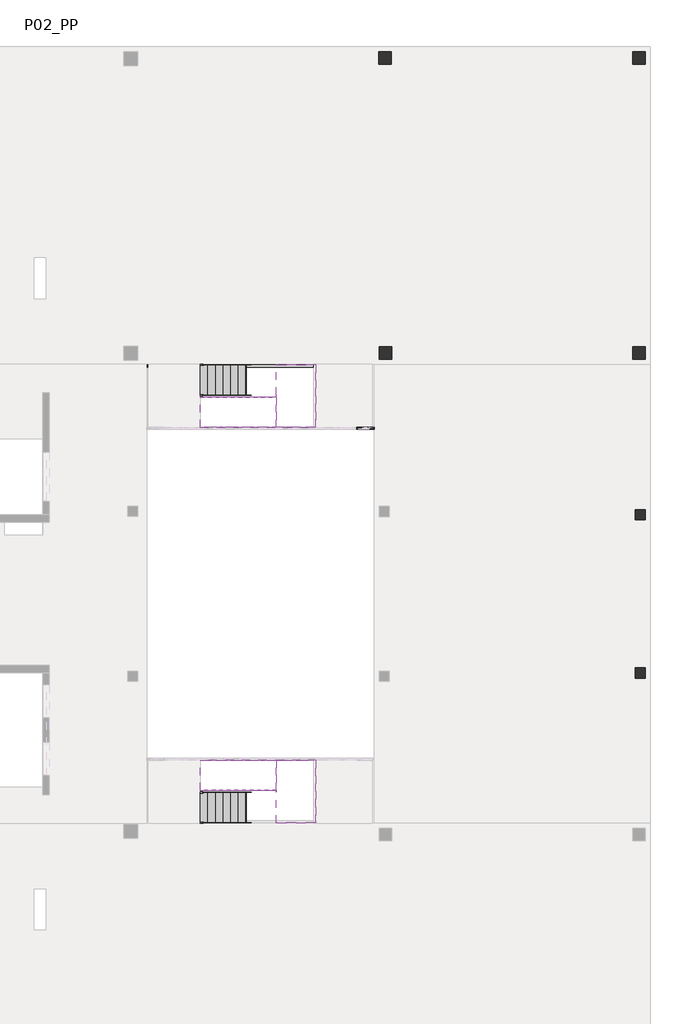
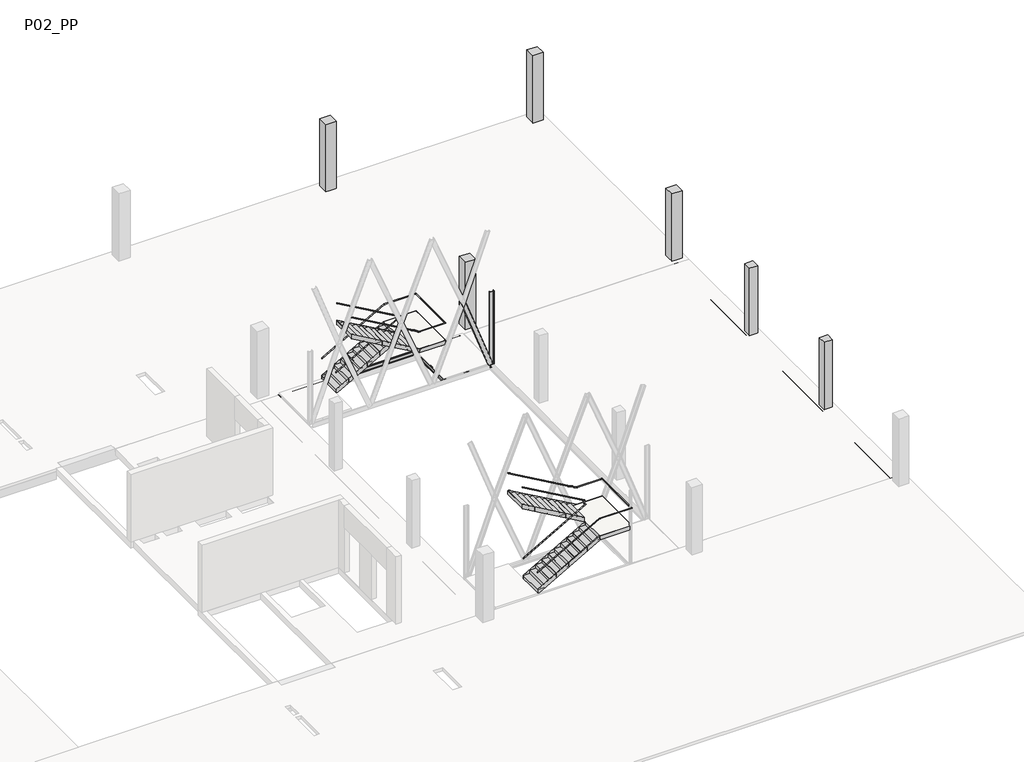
# One storey, part 7 of 7: 16 beams, 16 members, 7 columns, 4 railings, 4 stair flights, 2 slabs.
"""IFC4 building model written with IfcOpenShell, lengths in millimetres."""

from ifc_helpers import new_model, si_unit, frame, origin, place, context, project, spatial, polyline, circle_curve, ellipse_curve, outline, extrude, faceted_brep, transform, mapped, element, save
from ifc_brep_helpers import plane_surface, cylinder_surface, revolved_surface, advanced_brep
from components import ub_universal_beams_ipe_200x100_e371353f, ub_universal_beams_ipe_200x100_1ecb3d1d, ub_universal_beams_ipe_200x100_6905c83b, upn_200x75_f929c6c0, railing_900mm_pipe_top_rail_3393101f, railing_900mm_pipe_top_rail_a27a7483, railing_900mm_pipe_top_rail_dbc6d34f, railing_900mm_pipe_top_rail_26344ec8, slab_e47831ee, slab_ab228be9, metal_steps_w_10mm_tread_10mm_nosing_9ce4fc9e, metal_steps_w_10mm_tread_10mm_nosing_577c989f, metal_steps_w_10mm_tread_10mm_nosing_309ba8eb, metal_steps_w_10mm_tread_10mm_nosing_8405bb09

model = new_model("IFC4")

# Units and contexts
model_context = context("Model", 3, world=origin())
ifc_project = project(units=[si_unit("LENGTHUNIT", "METRE", prefix="MILLI")], contexts=[model_context])

# Site, building, storey
site = spatial("IfcSite", under=ifc_project)
building = spatial("IfcBuilding", under=site)
storey = spatial("IfcBuildingStorey", under=building, Name="P02_PP", Elevation=14910.0)

# Beams
placement = place(None, origin())
element("IfcBeam", 1, ObjectType="M_Concrete-Rectangular Beam : 1500 x 550mm", at=placement, inside=storey, context=model_context, shape_type="Brep", body=[
    faceted_brep([(16958.7687297, 13539.4134441, 14360.0), (16958.7687297, 24589.4144807, 14360.0), (16958.7687297, 24589.4144807, 14760.0), (16958.7687297, 13539.4134441, 14760.0), (15458.7687297, 24589.4144807, 14360.0), (15458.7687297, 13539.4134441, 14360.0), (15458.7687297, 15039.4134441, 14360.0), (16758.7687084, 13739.394575, 14360.0), (16758.7687081, 14289.394575, 14360.0), (16208.7687081, 14289.3945747, 14360.0), (16208.7687084, 13739.3945747, 14360.0), (15458.7687297, 13539.4134441, 14760.0), (15458.7687297, 15039.4134441, 14760.0), (15458.7687297, 24589.4144807, 14760.0), (16758.7687084, 13739.394575, 14610.0), (16758.7687081, 14289.394575, 14610.0), (16208.7687084, 13739.3945747, 14610.0), (16208.7687081, 14289.3945747, 14610.0)], [[[0, 1, 2, 3]], [[4, 1, 0, 5, 6], [7, 8, 9, 10]], [[4, 6, 5, 11, 12, 13]], [[1, 4, 13, 2]], [[5, 0, 3, 11]], [[14, 15, 8, 7]], [[16, 14, 7, 10]], [[17, 16, 10, 9]], [[15, 17, 9, 8]], [[15, 14, 16, 17]], [[3, 2, 13, 12, 11]]]),
])
element("IfcBeam", 2, ObjectType="M_Concrete-Rectangular Beam : 400 x 550mm", at=placement, inside=storey, context=model_context, shape_type="SweptSolid", body=[
    extrude(outline(polyline([(450.3958139, 24589.4144807), (850.3958139, 24589.4144807), (850.3958139, 15039.4134441), (450.3958139, 15039.4134441), (450.3958139, 24589.4144807)])), frame((0.0, 0.0, 14360.0), z_axis=(0.0, 0.0, 1.0), x_axis=(1.0, 0.0, 0.0)), (0.0, 0.0, 1.0), 400.0),
])
element("IfcBeam", 3, ObjectType="M_Concrete-Rectangular Beam : 400 x 550mm", at=placement, inside=storey, context=model_context, shape_type="SweptSolid", body=[
    extrude(outline(polyline([(2117.0624776, 24589.4144807), (2517.0624776, 24589.4144807), (2517.0624776, 15039.4134441), (2117.0624776, 15039.4134441), (2117.0624776, 24589.4144807)])), frame((0.0, 0.0, 14360.0), z_axis=(0.0, 0.0, 1.0), x_axis=(1.0, 0.0, 0.0)), (0.0, 0.0, 1.0), 400.0),
])
element("IfcBeam", 4, ObjectType="M_Concrete-Rectangular Beam : 400 x 550mm", at=placement, inside=storey, context=model_context, shape_type="SweptSolid", body=[
    extrude(outline(polyline([(3783.7291418, 24589.4144807), (4183.7291418, 24589.4144807), (4183.7291418, 15039.4134441), (3783.7291418, 15039.4134441), (3783.7291418, 24589.4144807)])), frame((0.0, 0.0, 14360.0), z_axis=(0.0, 0.0, 1.0), x_axis=(1.0, 0.0, 0.0)), (0.0, 0.0, 1.0), 400.0),
])
element("IfcBeam", 5, ObjectType="M_Concrete-Rectangular Beam : 400 x 550mm", at=placement, inside=storey, context=model_context, shape_type="SweptSolid", body=[
    extrude(outline(polyline([(5450.3958055, 24589.4144807), (5850.3958055, 24589.4144807), (5850.3958055, 15039.4134441), (5450.3958055, 15039.4134441), (5450.3958055, 24589.4144807)])), frame((0.0, 0.0, 14360.0), z_axis=(0.0, 0.0, 1.0), x_axis=(1.0, 0.0, 0.0)), (0.0, 0.0, 1.0), 400.0),
])
element("IfcBeam", 6, ObjectType="M_Concrete-Rectangular Beam : 400 x 550mm", at=placement, inside=storey, context=model_context, shape_type="SweptSolid", body=[
    extrude(outline(polyline([(7117.0624701, 24589.4144807), (7517.0624701, 24589.4144807), (7517.0624701, 15039.4134441), (7117.0624701, 15039.4134441), (7117.0624701, 24589.4144807)])), frame((0.0, 0.0, 14360.0), z_axis=(0.0, 0.0, 1.0), x_axis=(1.0, 0.0, 0.0)), (0.0, 0.0, 1.0), 400.0),
])
element("IfcBeam", 7, ObjectType="M_Concrete-Rectangular Beam : 400 x 550mm", at=placement, inside=storey, context=model_context, shape_type="SweptSolid", body=[
    extrude(outline(polyline([(8783.7291339, 24589.4144807), (9183.7291339, 24589.4144807), (9183.7291339, 15039.4134441), (8783.7291339, 15039.4134441), (8783.7291339, 24589.4144807)])), frame((0.0, 0.0, 14360.0), z_axis=(0.0, 0.0, 1.0), x_axis=(1.0, 0.0, 0.0)), (0.0, 0.0, 1.0), 400.0),
])
element("IfcBeam", 8, ObjectType="M_Concrete-Rectangular Beam : 400 x 550mm", at=placement, inside=storey, context=model_context, shape_type="SweptSolid", body=[
    extrude(outline(polyline([(10450.3957976, 24589.4144807), (10850.3957976, 24589.4144807), (10850.3957976, 15039.4134441), (10450.3957976, 15039.4134441), (10450.3957976, 24589.4144807)])), frame((0.0, 0.0, 14360.0), z_axis=(0.0, 0.0, 1.0), x_axis=(1.0, 0.0, 0.0)), (0.0, 0.0, 1.0), 400.0),
])
element("IfcBeam", 9, ObjectType="M_Concrete-Rectangular Beam : 400 x 550mm", at=placement, inside=storey, context=model_context, shape_type="SweptSolid", body=[
    extrude(outline(polyline([(12117.0624618, 24589.4144807), (12517.0624618, 24589.4144807), (12517.0624618, 15039.4134441), (12117.0624618, 15039.4134441), (12117.0624618, 24589.4144807)])), frame((0.0, 0.0, 14360.0), z_axis=(0.0, 0.0, 1.0), x_axis=(1.0, 0.0, 0.0)), (0.0, 0.0, 1.0), 400.0),
])
element("IfcBeam", 10, ObjectType="M_Concrete-Rectangular Beam : 400 x 550mm", at=placement, inside=storey, context=model_context, shape_type="SweptSolid", body=[
    extrude(outline(polyline([(13783.7291255, 24589.4144807), (14183.7291255, 24589.4144807), (14183.7291255, 15039.4134441), (13783.7291255, 15039.4134441), (13783.7291255, 24589.4144807)])), frame((0.0, 0.0, 14360.0), z_axis=(0.0, 0.0, 1.0), x_axis=(1.0, 0.0, 0.0)), (0.0, 0.0, 1.0), 400.0),
])
element("IfcBeam", 11, ObjectType="M_Concrete-Rectangular Beam : 700 x 500mm", at=placement, inside=storey, context=model_context, shape_type="Brep", body=[
    faceted_brep([(16258.7687242, -4560.5861501, 14910.0), (16958.7687242, -4560.5861501, 14910.0), (16958.7687242, 13539.4134441, 14910.0), (16258.7687242, 13539.4134441, 14910.0), (16758.7654432, 1564.4119943, 14910.0), (16758.7654437, 1164.4119943, 14910.0), (16358.7654437, 1164.4119939, 14910.0), (16358.7654432, 1564.4119939, 14910.0), (16758.7654618, 7814.4125105, 14910.0), (16758.7654623, 7414.4125105, 14910.0), (16358.7654623, 7414.41251, 14910.0), (16358.7654618, 7814.41251, 14910.0), (16258.7687242, 13539.4134441, 14760.0), (16258.7687242, 13539.4134441, 14410.0), (16258.7687242, -4560.5861501, 14410.0), (16258.7687242, -4560.5861501, 14760.0), (16958.7687242, -4560.5861501, 14410.0), (16958.7687242, 13539.4134441, 14410.0), (16758.7654437, 1164.4119943, 14410.0), (16758.7654432, 1564.4119943, 14410.0), (16358.7654432, 1564.4119939, 14410.0), (16358.7654437, 1164.4119939, 14410.0), (16758.7654623, 7414.4125105, 14410.0), (16758.7654618, 7814.4125105, 14410.0), (16358.7654618, 7814.41251, 14410.0), (16358.7654623, 7414.41251, 14410.0), (16958.7687242, -4560.5861501, 14760.0), (16958.7687242, 13539.4134441, 14760.0), (16758.7654437, 1164.4119943, 14610.0), (16758.7654432, 1564.4119943, 14610.0), (16358.7654437, 1164.4119939, 14610.0), (16358.7654432, 1564.4119939, 14610.0), (16758.7654623, 7414.4125105, 14610.0), (16758.7654618, 7814.4125105, 14610.0), (16358.7654623, 7414.41251, 14610.0), (16358.7654618, 7814.41251, 14610.0)], [[[0, 1, 2, 3], [4, 5, 6, 7], [8, 9, 10, 11]], [[0, 3, 12, 13, 14, 15]], [[16, 14, 13, 17], [18, 19, 20, 21], [22, 23, 24, 25]], [[2, 1, 26, 16, 17, 27]], [[19, 18, 28, 5, 4, 29]], [[18, 21, 30, 6, 5, 28]], [[21, 20, 31, 7, 6, 30]], [[20, 19, 29, 4, 7, 31]], [[23, 22, 32, 9, 8, 33]], [[22, 25, 34, 10, 9, 32]], [[25, 24, 35, 11, 10, 34]], [[24, 23, 33, 8, 11, 35]], [[1, 0, 15, 14, 16, 26]], [[3, 2, 27, 17, 13, 12]]]),
])
ub_universal_beams_ipe_200x100_shape = ub_universal_beams_ipe_200x100_e371353f(model_context)
element("IfcBeam", 12, ObjectType="UB-Universal Beams : IPE 200x100", at=placement, inside=storey, context=model_context, shape_type="MappedRepresentation", body=[
    mapped(ub_universal_beams_ipe_200x100_shape, transform((1299.9319648, 13489.4134389, 14810.0), x_axis=(-1.0, 0.0, 0.0), y_axis=(0.0, -1.0, 0.0), z_axis=(0.0, 0.0, 1.0))),
])
ub_universal_beams_ipe_200x100_2_shape = ub_universal_beams_ipe_200x100_1ecb3d1d(model_context)
element("IfcBeam", 13, ObjectType="UB-Universal Beams : IPE 200x100", at=placement, inside=storey, context=model_context, shape_type="MappedRepresentation", body=[
    mapped(ub_universal_beams_ipe_200x100_2_shape, transform((5938.4982342, 12672.0186888, 14810.0), x_axis=(0.0, -1.0, 0.0), y_axis=(1.0, 0.0, 0.0), z_axis=(0.0, 0.0, 1.0))),
])
ub_universal_beams_ipe_200x100_3_shape = ub_universal_beams_ipe_200x100_6905c83b(model_context)
element("IfcBeam", 14, ObjectType="UB-Universal Beams : IPE 200x100", at=placement, inside=storey, context=model_context, shape_type="MappedRepresentation", body=[
    mapped(ub_universal_beams_ipe_200x100_3_shape, transform((3714.2873994, 12677.4822857, 14810.0), x_axis=(0.0, -1.0, 0.0), y_axis=(1.0, 0.0, 0.0), z_axis=(0.0, 0.0, 1.0))),
])
element("IfcBeam", 15, ObjectType="UB-Universal Beams : IPE 200x100", at=placement, inside=storey, context=model_context, shape_type="MappedRepresentation", body=[
    mapped(ub_universal_beams_ipe_200x100_3_shape, transform((4826.3953909, 12677.4822857, 14810.0), x_axis=(0.0, -1.0, 0.0), y_axis=(1.0, 0.0, 0.0), z_axis=(0.0, 0.0, 1.0))),
])
element("IfcBeam", 16, ObjectType="M_MC Shapes : UPN200x75", at=placement, inside=storey, context=model_context, shape_type="AdvancedBrep", body=[
    advanced_brep(
    [(5999.572141, 10979.6239686, 14961.6299422), (5811.7968778, 10979.6239621, 14892.7790124), (5811.7968752, 11054.6239621, 14892.7790124), (5812.7119747, 11054.6239622, 14893.1145489), (5816.3700771, 11051.3233395, 14894.4558531), (5825.8446326, 10990.7752081, 14897.929856), (5833.1608374, 10984.1739629, 14900.6124643), (5978.208181, 10984.1739678, 14953.7964903), (5985.5243853, 10990.7752135, 14956.4790986), (5994.9989367, 11051.3233457, 14959.9531015), (5998.6570389, 11054.6239685, 14961.2944057), (5999.5721384, 11054.6239686, 14961.6299422), (4467.1491742, 10979.6239161, 18560.0000238), (4680.1697783, 10979.6239234, 18560.0000238), (4467.1491717, 11054.6239161, 18560.0000238), (4468.1873012, 11054.6239161, 18560.0000238), (4472.3372152, 11051.3232935, 18560.0000238), (4483.0855717, 10990.7751621, 18560.0000238), (4491.3853996, 10984.1739169, 18560.0000238), (4655.9335527, 10984.1739225, 18560.0000238), (4664.2333801, 10990.7751683, 18560.0000238), (4674.9817325, 11051.3233004, 18560.0000238), (4679.1316462, 11054.6239233, 18560.0000238), (4680.1697758, 11054.6239234, 18560.0000238)],
    [
        (0, 1),
        (1, 2),
        (2, 3),
        (3, 4, circle_curve(frame((5812.7119749, 11050.6739622, 14893.1145489), z_axis=(0.3442546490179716, 1.1791241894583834e-08, -0.9388763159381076), x_axis=(-3.4251510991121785e-08, 0.9999999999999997, 0.0)), 3.95)),
        (4, 5),
        (5, 6, circle_curve(frame((5833.1608372, 10992.0739629, 14900.6124643), z_axis=(-0.3442546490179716, -1.1791241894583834e-08, 0.9388763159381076), x_axis=(-3.4251510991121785e-08, 0.9999999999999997, 0.0)), 7.9)),
        (6, 7),
        (7, 8, circle_curve(frame((5978.2081807, 10992.0739678, 14953.7964903), z_axis=(-0.3442546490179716, -1.1791241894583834e-08, 0.9388763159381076), x_axis=(-3.4251510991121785e-08, 0.9999999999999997, 0.0)), 7.9)),
        (8, 9),
        (9, 10, circle_curve(frame((5998.657039, 11050.6739685, 14961.2944057), z_axis=(0.3442546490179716, 1.1791241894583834e-08, -0.9388763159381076), x_axis=(-3.4251510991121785e-08, 0.9999999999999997, 0.0)), 3.95)),
        (10, 11),
        (11, 0),
        (12, 1),
        (0, 13),
        (13, 12),
        (14, 2),
        (12, 14),
        (15, 3),
        (14, 15),
        (16, 4),
        (15, 16, ellipse_curve(frame((4468.1873014, 11050.6739161, 18560.0000238), z_axis=(-7.478685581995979e-11, 0.0, -1.0), x_axis=(-0.9999999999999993, -3.425151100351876e-08, 7.478690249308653e-11)), 4.2071569, 3.95)),
        (16, 17),
        (17, 5),
        (18, 6),
        (17, 18, ellipse_curve(frame((4491.3853993, 10992.0739169, 18560.0000238), z_axis=(7.478685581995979e-11, 0.0, 1.0), x_axis=(0.9999999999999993, 3.425151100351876e-08, -7.478690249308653e-11)), 8.4143139, 7.9)),
        (19, 7),
        (18, 19),
        (20, 8),
        (19, 20, ellipse_curve(frame((4655.9335524, 10992.0739225, 18560.0000238), z_axis=(7.478685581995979e-11, 0.0, 1.0), x_axis=(0.9999999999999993, 3.425151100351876e-08, -7.478690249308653e-11)), 8.4143139, 7.9)),
        (20, 21),
        (21, 9),
        (22, 10),
        (21, 22, ellipse_curve(frame((4679.1316463, 11050.6739233, 18560.0000238), z_axis=(-7.478685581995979e-11, 0.0, -1.0), x_axis=(-0.9999999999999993, -3.425151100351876e-08, 7.478690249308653e-11)), 4.2071569, 3.95)),
        (23, 11),
        (22, 23),
        (23, 13),
    ],
    [
        plane_surface(frame((5905.684509, 10990.5239653, 14927.2044773), z_axis=(0.3442546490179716, 1.1791241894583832e-08, -0.9388763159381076), x_axis=(0.938876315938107, 3.215793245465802e-08, 0.34425464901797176))),
        plane_surface(frame((4680.1817731, 10979.6239234, 18559.9673107), z_axis=(3.4251510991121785e-08, -0.9999999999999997, 0.0), x_axis=(0.3442546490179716, 1.1791241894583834e-08, -0.9388763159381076))),
        plane_surface(frame((4492.40651, 10979.6239169, 18491.1163809), z_axis=(-0.938876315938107, -3.215793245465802e-08, -0.3442546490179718), x_axis=(0.3442546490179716, 1.1791241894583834e-08, -0.9388763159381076))),
        plane_surface(frame((4492.4065074, 11054.6239169, 18491.1163809), z_axis=(-3.4251510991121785e-08, 0.9999999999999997, 0.0), x_axis=(0.3442546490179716, 1.1791241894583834e-08, -0.9388763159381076))),
        cylinder_surface(frame((4493.3216071, 11050.673917, 18491.4519174), z_axis=(-0.3442546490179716, -1.1791241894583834e-08, 0.9388763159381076), x_axis=(-3.4251510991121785e-08, 0.9999999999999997, 0.0)), 3.95),
        plane_surface(frame((4499.823631, 11033.1489172, 18493.8359926), z_axis=(0.926101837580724, 0.16439933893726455, 0.3395706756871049), x_axis=(0.3442546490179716, 1.1791241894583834e-08, -0.9388763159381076))),
        revolved_surface(polyline([(5833.160836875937, 10999.973962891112, 14900.612464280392), (4490.3882080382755, 10999.973916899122, 18562.71963553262)]), (4513.7704693, 10992.0739177, 18498.9498328), (0.3442546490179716, 1.1791241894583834e-08, -0.9388763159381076)),
        plane_surface(frame((4513.7704696, 10984.1739177, 18498.9498328), z_axis=(-3.4251510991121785e-08, 0.9999999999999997, 0.0), x_axis=(0.3442546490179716, 1.1791241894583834e-08, -0.9388763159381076))),
        revolved_surface(polyline([(5978.208180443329, 10999.973967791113, 14953.796490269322), (4654.93636112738, 10999.973922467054, 18562.719635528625)]), (4658.8178129, 10992.0739226, 18552.1338587), (0.3442546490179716, 1.1791241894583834e-08, -0.9388763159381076)),
        plane_surface(frame((4672.7646484, 11033.1489231, 18557.2476989), z_axis=(-0.9261018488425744, 0.16439927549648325, -0.33957067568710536), x_axis=(0.3442546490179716, 1.1791241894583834e-08, -0.9388763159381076))),
        cylinder_surface(frame((4679.2666712, 11050.6739233, 18559.6317742), z_axis=(-0.3442546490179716, -1.1791241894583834e-08, 0.9388763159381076), x_axis=(-3.4251510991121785e-08, 0.9999999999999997, 0.0)), 3.95),
        plane_surface(frame((4679.266671, 11054.6239233, 18559.6317742), z_axis=(-3.4251510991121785e-08, 0.9999999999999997, 0.0), x_axis=(0.3442546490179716, 1.1791241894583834e-08, -0.9388763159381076))),
        plane_surface(frame((4680.1817706, 11054.6239234, 18559.9673107), z_axis=(0.938876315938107, 3.215793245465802e-08, 0.3442546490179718), x_axis=(0.3442546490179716, 1.1791241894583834e-08, -0.9388763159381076))),
        plane_surface(frame((4467.1491739, 10990.5239161, 18560.0000238), z_axis=(7.478685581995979e-11, 0.0, 1.0), x_axis=(-1.0, 0.0, 7.478685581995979e-11))),
    ],
    [
        (0, [[1, 2, 3, 4, 5, 6, 7, 8, 9, 10, 11, 12]]),
        (1, [[13, -1, 14, 15]]),
        (2, [[16, -2, -13, 17]]),
        (3, [[18, -3, -16, 19]]),
        (4, [[20, -4, -18, 21]]),
        (5, [[22, 23, -5, -20]]),
        (6, [[24, -6, -23, 25]]),
        (7, [[26, -7, -24, 27]]),
        (8, [[28, -8, -26, 29]]),
        (9, [[30, 31, -9, -28]]),
        (10, [[32, -10, -31, 33]]),
        (11, [[34, -11, -32, 35]]),
        (12, [[-14, -12, -34, 36]]),
        (13, [[-36, -35, -33, -30, -29, -27, -25, -22, -21, -19, -17, -15]]),
    ],
),
])

# Columns
element("IfcColumn", 17, ObjectType="Concrete-Rectangular-Column : Pilar_Rectangular-Formigo-500x500", at=placement, inside=storey, context=model_context, shape_type="Brep", body=[
    faceted_brep([(6758.8308422, 14239.3949055, 14910.0), (6758.8308423, 13739.3949055, 14910.0), (6258.8308423, 13739.3949054, 14910.0), (6258.8308422, 14239.3949054, 14910.0), (6758.8308422, 14239.3949055, 18360.0), (6758.8308423, 13739.3949055, 18360.0), (6758.8308423, 13739.3949055, 17960.0), (6758.8308422, 14239.3949055, 17960.0), (6258.8308423, 13739.3949054, 18360.0), (6258.8308423, 13739.3949054, 17960.0), (6258.8308423, 13739.3949054, 17860.0), (6258.8308422, 14239.3949054, 18360.0), (6258.8308422, 14239.3949054, 17960.0)], [[[0, 1, 2, 3]], [[4, 5, 6, 1, 0, 7]], [[5, 8, 9, 10, 2, 1, 6]], [[8, 11, 12, 3, 2, 10, 9]], [[11, 4, 7, 0, 3, 12]], [[4, 11, 8, 5]]]),
])
element("IfcColumn", 18, ObjectType="Concrete-Rectangular-Column : Pilar_Rectangular-Formigo-500x500", at=placement, inside=storey, context=model_context, shape_type="Brep", body=[
    faceted_brep([(6733.8155464, 25889.413725, 14910.0), (6733.8155462, 25389.413725, 14910.0), (6233.8155462, 25389.4137252, 14910.0), (6233.8155464, 25889.4137252, 14910.0), (6733.8155464, 25889.413725, 18360.0), (6733.8155462, 25389.413725, 18360.0), (6733.8155462, 25389.413725, 18110.0), (6733.8155464, 25889.413725, 18110.0), (6233.8155462, 25389.4137252, 18360.0), (6233.8155462, 25389.4137252, 18110.0), (6233.8155464, 25889.4137252, 18360.0), (6233.8155464, 25889.4137252, 18110.0)], [[[0, 1, 2, 3]], [[4, 5, 6, 1, 0, 7]], [[5, 8, 9, 2, 1, 6]], [[8, 10, 11, 3, 2, 9]], [[10, 4, 7, 0, 3, 11]], [[4, 10, 8, 5]]]),
])
element("IfcColumn", 19, ObjectType="Concrete-Rectangular-Column : Pilar_Rectangular-Formigo-400x400", at=placement, inside=storey, context=model_context, shape_type="Brep", body=[
    faceted_brep([(16758.7654432, 1564.4119943, 14610.0), (16758.7654437, 1164.4119943, 14610.0), (16358.7654437, 1164.4119939, 14610.0), (16358.7654432, 1564.4119939, 14610.0), (16758.7654432, 1564.4119943, 18360.0), (16758.7654437, 1164.4119943, 18360.0), (16758.7654437, 1164.4119943, 17860.0), (16758.7654437, 1164.4119943, 14910.0), (16758.7654432, 1564.4119943, 14910.0), (16758.7654432, 1564.4119943, 17860.0), (16358.7654437, 1164.4119939, 18360.0), (16358.7654437, 1164.4119939, 17860.0), (16358.7654437, 1164.4119939, 14910.0), (16358.7654432, 1564.4119939, 18360.0), (16358.7654432, 1564.4119939, 17860.0), (16358.7654432, 1564.4119939, 14910.0)], [[[0, 1, 2, 3]], [[4, 5, 6, 7, 1, 0, 8, 9]], [[5, 10, 11, 12, 2, 1, 7, 6]], [[10, 13, 14, 15, 3, 2, 12, 11]], [[13, 4, 9, 8, 0, 3, 15, 14]], [[4, 13, 10, 5]]]),
])
element("IfcColumn", 20, ObjectType="Concrete-Rectangular-Column : Pilar_Rectangular-Formigo-400x400", at=placement, inside=storey, context=model_context, shape_type="Brep", body=[
    faceted_brep([(16758.7654618, 7814.4125105, 14610.0), (16758.7654623, 7414.4125105, 14610.0), (16358.7654623, 7414.41251, 14610.0), (16358.7654618, 7814.41251, 14610.0), (16758.7654618, 7814.4125105, 18360.0), (16758.7654623, 7414.4125105, 18360.0), (16758.7654623, 7414.4125105, 17860.0), (16758.7654623, 7414.4125105, 14910.0), (16758.7654618, 7814.4125105, 14910.0), (16758.7654618, 7814.4125105, 17860.0), (16358.7654623, 7414.41251, 18360.0), (16358.7654623, 7414.41251, 17860.0), (16358.7654623, 7414.41251, 14910.0), (16358.7654618, 7814.41251, 18360.0), (16358.7654618, 7814.41251, 17860.0), (16358.7654618, 7814.41251, 14910.0)], [[[0, 1, 2, 3]], [[4, 5, 6, 7, 1, 0, 8, 9]], [[5, 10, 11, 12, 2, 1, 7, 6]], [[10, 13, 14, 15, 3, 2, 12, 11]], [[13, 4, 9, 8, 0, 3, 15, 14]], [[4, 13, 10, 5]]]),
])
element("IfcColumn", 21, ObjectType="Concrete-Rectangular-Column : Pilar_Rectangular-Formigo-500x500", at=placement, inside=storey, context=model_context, shape_type="Brep", body=[
    faceted_brep([(16758.7686071, 25889.4137774, 14910.0), (16758.7686074, 25389.4137774, 14910.0), (16258.7686074, 25389.4137771, 14910.0), (16258.7686071, 25889.4137771, 14910.0), (16758.7686071, 25889.4137774, 18360.0), (16758.7686074, 25389.4137774, 18360.0), (16758.7686074, 25389.4137774, 18110.0), (16758.7686071, 25889.4137774, 18110.0), (16258.7686074, 25389.4137771, 18360.0), (16258.7686074, 25389.4137771, 18110.0), (16258.7686071, 25889.4137771, 18360.0), (16258.7686071, 25889.4137771, 18110.0)], [[[0, 1, 2, 3]], [[4, 5, 6, 1, 0, 7]], [[5, 8, 9, 2, 1, 6]], [[8, 10, 11, 3, 2, 9]], [[10, 4, 7, 0, 3, 11]], [[4, 10, 8, 5]]]),
])
element("IfcColumn", 22, ObjectType="Concrete-Rectangular-Column : Pilar_Rectangular-Formigo-500x500", at=placement, inside=storey, context=model_context, shape_type="Brep", body=[
    faceted_brep([(16758.768713, 14239.3949191, 14910.0), (16758.7687126, 13739.3949191, 14910.0), (16258.7687126, 13739.3949194, 14910.0), (16258.768713, 14239.3949194, 14910.0), (16758.768713, 14239.3949191, 18360.0), (16758.7687126, 13739.3949191, 18360.0), (16758.7687126, 13739.3949191, 17960.0), (16758.7687126, 13739.3949191, 17860.0), (16758.768713, 14239.3949191, 17860.0), (16758.768713, 14239.3949191, 17960.0), (16258.7687126, 13739.3949194, 18360.0), (16258.7687126, 13739.3949194, 17960.0), (16258.768713, 14239.3949194, 18360.0), (16258.768713, 14239.3949194, 17960.0)], [[[0, 1, 2, 3]], [[4, 5, 6, 7, 1, 0, 8, 9]], [[5, 10, 11, 2, 1, 7, 6]], [[10, 12, 13, 3, 2, 11]], [[12, 4, 9, 8, 0, 3, 13]], [[4, 12, 10, 5]]]),
])
upn_200x75_shape = upn_200x75_f929c6c0(model_context)
element("IfcColumn", 23, ObjectType="M_MC Shapes-Column : UPN 200x75", at=placement, inside=storey, context=model_context, shape_type="MappedRepresentation", body=[
    mapped(upn_200x75_shape, transform((5958.8307626, 11006.0236936, 0.0), x_axis=(3.1229579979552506e-08, 0.9999999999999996, 0.0), y_axis=(-0.9999999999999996, 3.1229579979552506e-08, 0.0), z_axis=(0.0, 0.0, 1.0))),
])

# Members
element("IfcMember", 24, ObjectType="Stringer-Paint-10mm_Width-200mm_Height", at=placement, inside=storey, context=model_context, shape_type="SweptSolid", body=[
    extrude(outline(polyline([(15195.593333, -801.4958562), (15010.0, -801.4958562), (15010.0, -723.2895325), (16664.4282252, 2188.5041438), (16885.0, 2188.5041438), (16885.0, 2171.8598778), (15195.593333, -801.4958562)])), frame((0.0, -3354.3473686, 0.0), z_axis=(0.0, 1.0, 0.0), x_axis=(0.0, 0.0, 1.0)), (0.0, 0.0, 1.0), 10.0),
])
element("IfcMember", 25, ObjectType="Stringer-Paint-10mm_Width-200mm_Height", at=placement, inside=storey, context=model_context, shape_type="SweptSolid", body=[
    extrude(outline(polyline([(15195.593333, -801.4958562), (15010.0, -801.4958562), (15010.0, -723.2895325), (16685.0, 2224.7104675), (16885.0, 2171.8598778), (15195.593333, -801.4958562)])), frame((0.0, -4554.3473686, 0.0), z_axis=(0.0, 1.0, 0.0), x_axis=(0.0, 0.0, 1.0)), (0.0, 0.0, 1.0), 10.0),
])
element("IfcMember", 26, ObjectType="Stringer-Paint-10mm_Width-200mm_Height", at=placement, inside=storey, context=model_context, shape_type="SweptSolid", body=[
    extrude(outline(polyline([(16840.5645888, 2198.5041438), (17070.593333, 2198.5041438), (18775.1387875, -801.4958562), (18545.1100433, -801.4958562), (16840.5645888, 2198.5041438)])), frame((0.0, -3284.8316761, 0.0), z_axis=(0.0, 1.0, 0.0), x_axis=(0.0, 0.0, 1.0)), (0.0, 0.0, 1.0), 10.0),
])
element("IfcMember", 27, ObjectType="Stringer-Paint-10mm_Width-200mm_Height", at=placement, inside=storey, context=model_context, shape_type="SweptSolid", body=[
    extrude(outline(polyline([(16685.0, 2472.2978201), (16885.0, 2525.1484098), (18775.1387875, -801.4958562), (18545.1100433, -801.4958562), (16685.0, 2472.2978201)])), frame((0.0, -2084.8316761, 0.0), z_axis=(0.0, 1.0, 0.0), x_axis=(0.0, 0.0, 1.0)), (0.0, 0.0, 1.0), 10.0),
])
element("IfcMember", 28, ObjectType="Stringer-Paint-10mm_Width-200mm_Height", at=placement, inside=storey, context=model_context, shape_type="SweptSolid", body=[
    extrude(outline(polyline([(2188.5041438, -3284.8316761), (2198.5041438, -3284.8316761), (2198.5041438, -3354.3473686), (2188.5041438, -3354.3473686), (2188.5041438, -3284.8316761)])), frame((0.0, 0.0, 16685.0), z_axis=(0.0, 0.0, 1.0), x_axis=(1.0, 0.0, 0.0)), (0.0, 0.0, 1.0), 200.0),
])
element("IfcMember", 29, ObjectType="Stringer-Paint-10mm_Width-200mm_Height", at=placement, inside=storey, context=model_context, shape_type="Brep", body=[
    faceted_brep([(2171.8598778, -4544.3473686, 16885.0), (2171.8598778, -4554.3473686, 16885.0), (3758.5041438, -4554.3473686, 16885.0), (3748.5041438, -4544.3473686, 16885.0), (2224.7104675, -4544.3473686, 16685.0), (3748.5041438, -4544.3473686, 16685.0), (2224.7104675, -4554.3473686, 16685.0), (3758.5041438, -4554.3473686, 16685.0)], [[[0, 1, 2, 3]], [[4, 0, 3, 5]], [[6, 4, 5, 7]], [[1, 6, 7, 2]], [[1, 0, 4, 6]], [[2, 7, 5, 3]]]),
])
element("IfcMember", 30, ObjectType="Stringer-Paint-10mm_Width-200mm_Height", at=placement, inside=storey, context=model_context, shape_type="SweptSolid", body=[
    extrude(outline(polyline([(3758.5041438, -4554.3473686), (3748.5041438, -4544.3473686), (3748.5041438, -2084.8316761), (3758.5041438, -2074.8316761), (3758.5041438, -4554.3473686)])), frame((0.0, 0.0, 16685.0), z_axis=(0.0, 0.0, 1.0), x_axis=(1.0, 0.0, 0.0)), (0.0, 0.0, 1.0), 200.0),
])
element("IfcMember", 31, ObjectType="Stringer-Paint-10mm_Width-200mm_Height", at=placement, inside=storey, context=model_context, shape_type="Brep", body=[
    faceted_brep([(3748.5041438, -2084.8316761, 16885.0), (3758.5041438, -2074.8316761, 16885.0), (2525.1484098, -2074.8316761, 16885.0), (2525.1484098, -2084.8316761, 16885.0), (3748.5041438, -2084.8316761, 16685.0), (2472.2978201, -2084.8316761, 16685.0), (3758.5041438, -2074.8316761, 16685.0), (2472.2978201, -2074.8316761, 16685.0)], [[[0, 1, 2, 3]], [[4, 0, 3, 5]], [[6, 4, 5, 7]], [[1, 6, 7, 2]], [[1, 0, 4, 6]], [[2, 7, 5, 3]]]),
])
element("IfcMember", 32, ObjectType="Stringer-Paint-10mm_Width-200mm_Height", at=placement, inside=storey, context=model_context, shape_type="SweptSolid", body=[
    extrude(outline(polyline([(15195.593333, -801.4958562), (15010.0, -801.4958562), (15010.0, -723.2895325), (16664.4282252, 2188.5041438), (16885.0, 2188.5041438), (16885.0, 2171.8598778), (15195.593333, -801.4958562)])), frame((0.0, 12324.1395051, 0.0), z_axis=(0.0, 1.0, 0.0), x_axis=(0.0, 0.0, 1.0)), (0.0, 0.0, 1.0), 10.0),
])
element("IfcMember", 33, ObjectType="Stringer-Paint-10mm_Width-200mm_Height", at=placement, inside=storey, context=model_context, shape_type="SweptSolid", body=[
    extrude(outline(polyline([(15195.593333, -801.4958562), (15010.0, -801.4958562), (15010.0, -723.2895325), (16685.0, 2224.7104675), (16885.0, 2171.8598778), (15195.593333, -801.4958562)])), frame((0.0, 13524.1395051, 0.0), z_axis=(0.0, 1.0, 0.0), x_axis=(0.0, 0.0, 1.0)), (0.0, 0.0, 1.0), 10.0),
])
element("IfcMember", 34, ObjectType="Stringer-Paint-10mm_Width-200mm_Height", at=placement, inside=storey, context=model_context, shape_type="SweptSolid", body=[
    extrude(outline(polyline([(16840.5645888, 2198.5041438), (17070.593333, 2198.5041438), (18775.1387875, -801.4958562), (18545.1100433, -801.4958562), (16840.5645888, 2198.5041438)])), frame((0.0, 12254.6238126, 0.0), z_axis=(0.0, 1.0, 0.0), x_axis=(0.0, 0.0, 1.0)), (0.0, 0.0, 1.0), 10.0),
])
element("IfcMember", 35, ObjectType="Stringer-Paint-10mm_Width-200mm_Height", at=placement, inside=storey, context=model_context, shape_type="SweptSolid", body=[
    extrude(outline(polyline([(16685.0, 2472.2978201), (16885.0, 2525.1484098), (18775.1387875, -801.4958562), (18545.1100433, -801.4958562), (16685.0, 2472.2978201)])), frame((0.0, 11054.6238126, 0.0), z_axis=(0.0, 1.0, 0.0), x_axis=(0.0, 0.0, 1.0)), (0.0, 0.0, 1.0), 10.0),
])
element("IfcMember", 36, ObjectType="Stringer-Paint-10mm_Width-200mm_Height", at=placement, inside=storey, context=model_context, shape_type="SweptSolid", body=[
    extrude(outline(polyline([(2188.5041438, 12334.1395051), (2198.5041438, 12334.1395051), (2198.5041438, 12264.6238126), (2188.5041438, 12264.6238126), (2188.5041438, 12334.1395051)])), frame((0.0, 0.0, 16685.0), z_axis=(0.0, 0.0, 1.0), x_axis=(1.0, 0.0, 0.0)), (0.0, 0.0, 1.0), 200.0),
])
element("IfcMember", 37, ObjectType="Stringer-Paint-10mm_Width-200mm_Height", at=placement, inside=storey, context=model_context, shape_type="Brep", body=[
    faceted_brep([(3748.5041438, 13524.1395051, 16885.0), (3758.5041438, 13534.1395051, 16885.0), (2171.8598778, 13534.1395051, 16885.0), (2171.8598778, 13524.1395051, 16885.0), (3748.5041438, 13524.1395051, 16685.0), (2224.7104675, 13524.1395051, 16685.0), (3758.5041438, 13534.1395051, 16685.0), (2224.7104675, 13534.1395051, 16685.0)], [[[0, 1, 2, 3]], [[4, 0, 3, 5]], [[6, 4, 5, 7]], [[1, 6, 7, 2]], [[1, 0, 4, 6]], [[2, 7, 5, 3]]]),
])
element("IfcMember", 38, ObjectType="Stringer-Paint-10mm_Width-200mm_Height", at=placement, inside=storey, context=model_context, shape_type="SweptSolid", body=[
    extrude(outline(polyline([(3758.5041438, 11054.6238126), (3748.5041438, 11064.6238126), (3748.5041438, 13524.1395051), (3758.5041438, 13534.1395051), (3758.5041438, 11054.6238126)])), frame((0.0, 0.0, 16685.0), z_axis=(0.0, 0.0, 1.0), x_axis=(1.0, 0.0, 0.0)), (0.0, 0.0, 1.0), 200.0),
])
element("IfcMember", 39, ObjectType="Stringer-Paint-10mm_Width-200mm_Height", at=placement, inside=storey, context=model_context, shape_type="Brep", body=[
    faceted_brep([(2525.1484098, 11064.6238126, 16885.0), (2525.1484098, 11054.6238126, 16885.0), (3758.5041438, 11054.6238126, 16885.0), (3748.5041438, 11064.6238126, 16885.0), (2472.2978201, 11064.6238126, 16685.0), (3748.5041438, 11064.6238126, 16685.0), (2472.2978201, 11054.6238126, 16685.0), (3758.5041438, 11054.6238126, 16685.0)], [[[0, 1, 2, 3]], [[4, 0, 3, 5]], [[6, 4, 5, 7]], [[1, 6, 7, 2]], [[1, 0, 4, 6]], [[2, 7, 5, 3]]]),
])

# Railings
railing_900mm_pipe_top_rail_shape = railing_900mm_pipe_top_rail_3393101f(model_context)
element("IfcRailing", 40, ObjectType="900mm_Pipe_Top Rail", at=placement, inside=storey, context=model_context, shape_type="MappedRepresentation", body=[
    mapped(railing_900mm_pipe_top_rail_shape, transform((0.0, 0.0, 0.0), x_axis=(1.0, 0.0, 0.0), y_axis=(0.0, 1.0, 0.0), z_axis=(0.0, 0.0, 1.0))),
])
railing_900mm_pipe_top_rail_2_shape = railing_900mm_pipe_top_rail_a27a7483(model_context)
element("IfcRailing", 41, ObjectType="900mm_Pipe_Top Rail", at=placement, inside=storey, context=model_context, shape_type="MappedRepresentation", body=[
    mapped(railing_900mm_pipe_top_rail_2_shape, transform((0.0, 0.0, 0.0), x_axis=(1.0, 0.0, 0.0), y_axis=(0.0, 1.0, 0.0), z_axis=(0.0, 0.0, 1.0))),
])
railing_900mm_pipe_top_rail_3_shape = railing_900mm_pipe_top_rail_dbc6d34f(model_context)
element("IfcRailing", 42, ObjectType="900mm_Pipe_Top Rail", at=placement, inside=storey, context=model_context, shape_type="MappedRepresentation", body=[
    mapped(railing_900mm_pipe_top_rail_3_shape, transform((0.0, 0.0, 0.0), x_axis=(1.0, 0.0, 0.0), y_axis=(0.0, 1.0, 0.0), z_axis=(0.0, 0.0, 1.0))),
])
railing_900mm_pipe_top_rail_4_shape = railing_900mm_pipe_top_rail_26344ec8(model_context)
element("IfcRailing", 43, ObjectType="900mm_Pipe_Top Rail", at=placement, inside=storey, context=model_context, shape_type="MappedRepresentation", body=[
    mapped(railing_900mm_pipe_top_rail_4_shape, transform((0.0, 0.0, 0.0), x_axis=(1.0, 0.0, 0.0), y_axis=(0.0, 1.0, 0.0), z_axis=(0.0, 0.0, 1.0))),
])

# Slabs
slab_shape = slab_e47831ee(model_context)
element("IfcSlab", 44, ObjectType="Non-Monolitic_Landing", at=placement, inside=storey, context=model_context, shape_type="MappedRepresentation", body=[
    mapped(slab_shape, transform((0.0, 0.0, 0.0), x_axis=(1.0, 0.0, 0.0), y_axis=(0.0, 1.0, 0.0), z_axis=(0.0, 0.0, 1.0))),
])
slab_2_shape = slab_ab228be9(model_context)
element("IfcSlab", 45, ObjectType="Non-Monolitic_Landing", at=placement, inside=storey, context=model_context, shape_type="MappedRepresentation", body=[
    mapped(slab_2_shape, transform((0.0, 0.0, 0.0), x_axis=(1.0, 0.0, 0.0), y_axis=(0.0, 1.0, 0.0), z_axis=(0.0, 0.0, 1.0))),
])

# Stair flights
metal_steps_w_10mm_tread_10mm_nosing_shape = metal_steps_w_10mm_tread_10mm_nosing_9ce4fc9e(model_context)
element("IfcStairFlight", 46, ObjectType="Metal_Steps_w-10mm_Tread-10mm_Nosing", at=placement, inside=storey, context=model_context, shape_type="MappedRepresentation", body=[
    mapped(metal_steps_w_10mm_tread_10mm_nosing_shape, transform((0.0, 0.0, 0.0), x_axis=(1.0, 0.0, 0.0), y_axis=(0.0, 1.0, 0.0), z_axis=(0.0, 0.0, 1.0))),
])
metal_steps_w_10mm_tread_10mm_nosing_2_shape = metal_steps_w_10mm_tread_10mm_nosing_577c989f(model_context)
element("IfcStairFlight", 47, ObjectType="Metal_Steps_w-10mm_Tread-10mm_Nosing", at=placement, inside=storey, context=model_context, shape_type="MappedRepresentation", body=[
    mapped(metal_steps_w_10mm_tread_10mm_nosing_2_shape, transform((0.0, 0.0, 0.0), x_axis=(1.0, 0.0, 0.0), y_axis=(0.0, 1.0, 0.0), z_axis=(0.0, 0.0, 1.0))),
])
metal_steps_w_10mm_tread_10mm_nosing_3_shape = metal_steps_w_10mm_tread_10mm_nosing_309ba8eb(model_context)
element("IfcStairFlight", 48, ObjectType="Metal_Steps_w-10mm_Tread-10mm_Nosing", at=placement, inside=storey, context=model_context, shape_type="MappedRepresentation", body=[
    mapped(metal_steps_w_10mm_tread_10mm_nosing_3_shape, transform((0.0, 0.0, 0.0), x_axis=(1.0, 0.0, 0.0), y_axis=(0.0, 1.0, 0.0), z_axis=(0.0, 0.0, 1.0))),
])
metal_steps_w_10mm_tread_10mm_nosing_4_shape = metal_steps_w_10mm_tread_10mm_nosing_8405bb09(model_context)
element("IfcStairFlight", 49, ObjectType="Metal_Steps_w-10mm_Tread-10mm_Nosing", at=placement, inside=storey, context=model_context, shape_type="MappedRepresentation", body=[
    mapped(metal_steps_w_10mm_tread_10mm_nosing_4_shape, transform((0.0, 0.0, 0.0), x_axis=(1.0, 0.0, 0.0), y_axis=(0.0, 1.0, 0.0), z_axis=(0.0, 0.0, 1.0))),
])

save(model, "model.ifc")
